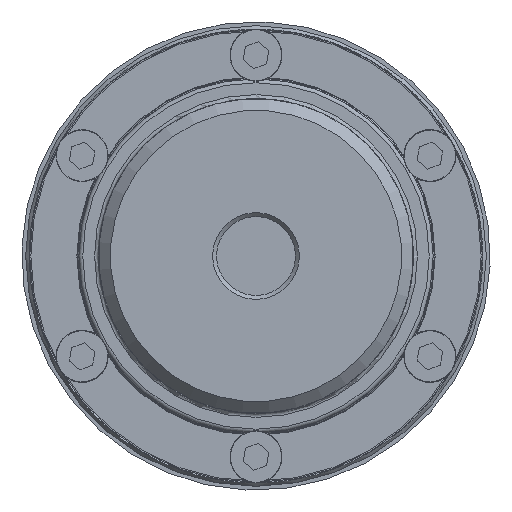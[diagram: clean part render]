
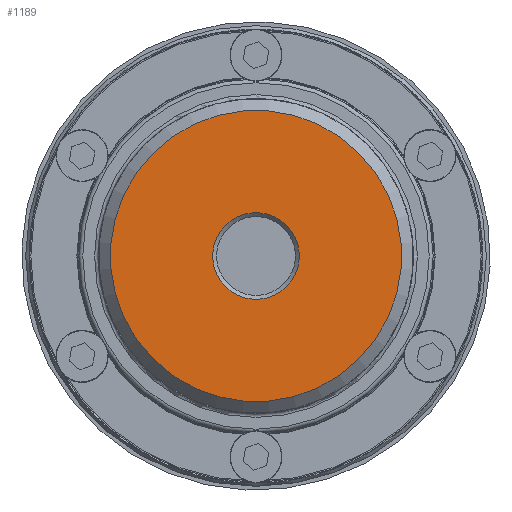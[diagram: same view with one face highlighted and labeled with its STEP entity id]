
A CAD part, left-side view. The second image highlights one B-rep face of the part: STEP entity #1189.
In plain terms, the highlighted planar face has unit normal (-1, 0, 0) as drawn and (0, 0, -1) by its records, which use the part's own axes.
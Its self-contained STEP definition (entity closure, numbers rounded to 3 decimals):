
#1189 = ADVANCED_FACE( '', ( #2442, #2443 ), #2444, .T. );
#2442 = FACE_OUTER_BOUND( '', #4067, .T. );
#2443 = FACE_BOUND( '', #4068, .T. );
#2444 = PLANE( '', #4069 );
#4067 = EDGE_LOOP( '', ( #5755 ) );
#4068 = EDGE_LOOP( '', ( #5756 ) );
#4069 = AXIS2_PLACEMENT_3D( '', #5757, #5758, #5759 );
#5755 = ORIENTED_EDGE( '', *, *, #8432, .T. );
#5756 = ORIENTED_EDGE( '', *, *, #8665, .T. );
#5757 = CARTESIAN_POINT( '', ( 0., 0., 0. ) );
#5758 = DIRECTION( '', ( 0., 0., -1. ) );
#5759 = DIRECTION( '', ( -1., 0., 0. ) );
#8432 = EDGE_CURVE( '', #9615, #9615, #9616, .T. );
#8665 = EDGE_CURVE( '', #10011, #10011, #10012, .F. );
#9615 = VERTEX_POINT( '', #11329 );
#9616 = CIRCLE( '', #11330, 37. );
#10011 = VERTEX_POINT( '', #11960 );
#10012 = CIRCLE( '', #11961, 11. );
#11329 = CARTESIAN_POINT( '', ( -37., 0., 0. ) );
#11330 = AXIS2_PLACEMENT_3D( '', #14130, #14131, #14132 );
#11960 = CARTESIAN_POINT( '', ( -11., 0., 0. ) );
#11961 = AXIS2_PLACEMENT_3D( '', #14485, #14486, #14487 );
#14130 = CARTESIAN_POINT( '', ( 0., 0., 0. ) );
#14131 = DIRECTION( '', ( 0., 0., -1. ) );
#14132 = DIRECTION( '', ( -1., 0., 0. ) );
#14485 = CARTESIAN_POINT( '', ( 0., 0., 0. ) );
#14486 = DIRECTION( '', ( 0., 0., -1. ) );
#14487 = DIRECTION( '', ( -1., 0., 0. ) );
